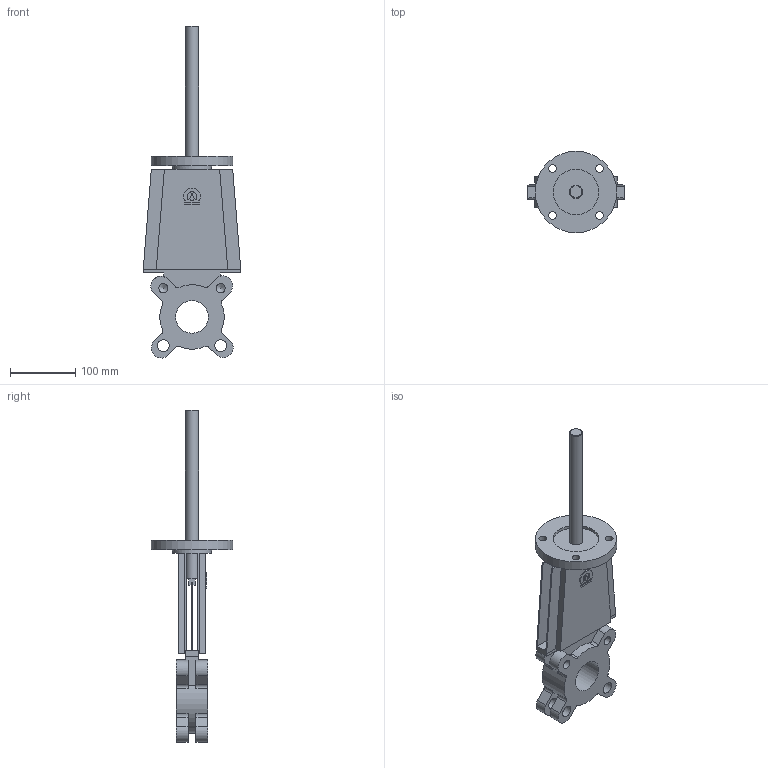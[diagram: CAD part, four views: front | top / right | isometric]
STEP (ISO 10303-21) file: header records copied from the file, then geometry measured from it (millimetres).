
FILE_DESCRIPTION(('STEP AP203'), '1');
FILE_NAME('K51GVA_DN50', '', ('UNSPECIFIED'), ('UNSPECIFIED'), 'ASCON STEP Converter 1.6', 'ASCON Math Kernel', '');
FILE_SCHEMA(('CONFIG_CONTROL_DESIGN'));
Length unit declared in the file: millimetre
Bounding box: 150 x 125 x 510.12 mm (x, y, z)
Volume: 825656.1 mm3; surface area: 235599 mm2
Topology: 1 solids, 1 shells, 159 faces, 446 edges, 289 vertices
Faces by surface type: plane 102, cylinder 52, cone 5
Full cylindrical faces by diameter (mm): 12 x4, 13.835 x4, 18 x4, 20 x2, 50 x1, 60 x1, 70 x1, 125 x1
Entity records: 6326 total; most frequent: DIRECTION 872, CARTESIAN_POINT 864, ORIENTED_EDGE 838, EDGE_CURVE 419, AXIS2_PLACEMENT_3D 293, LINE 286, VECTOR 286, VERTEX_POINT 285
